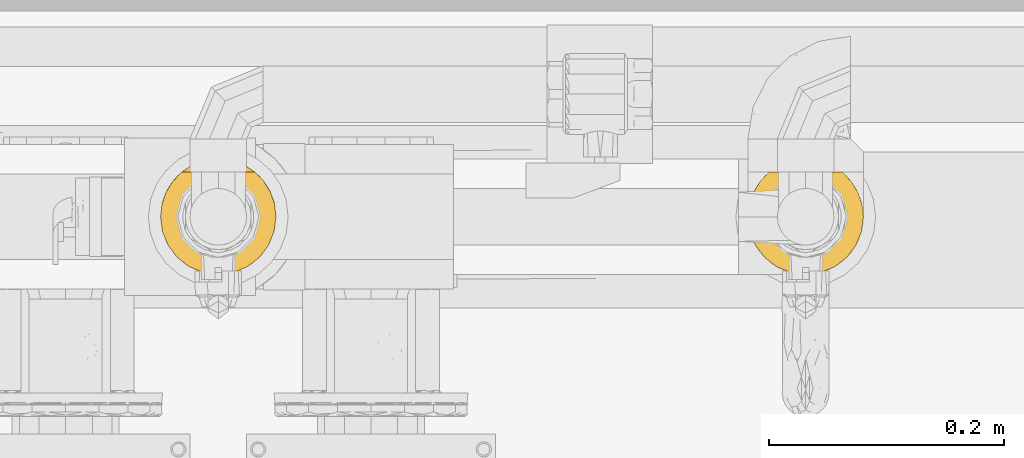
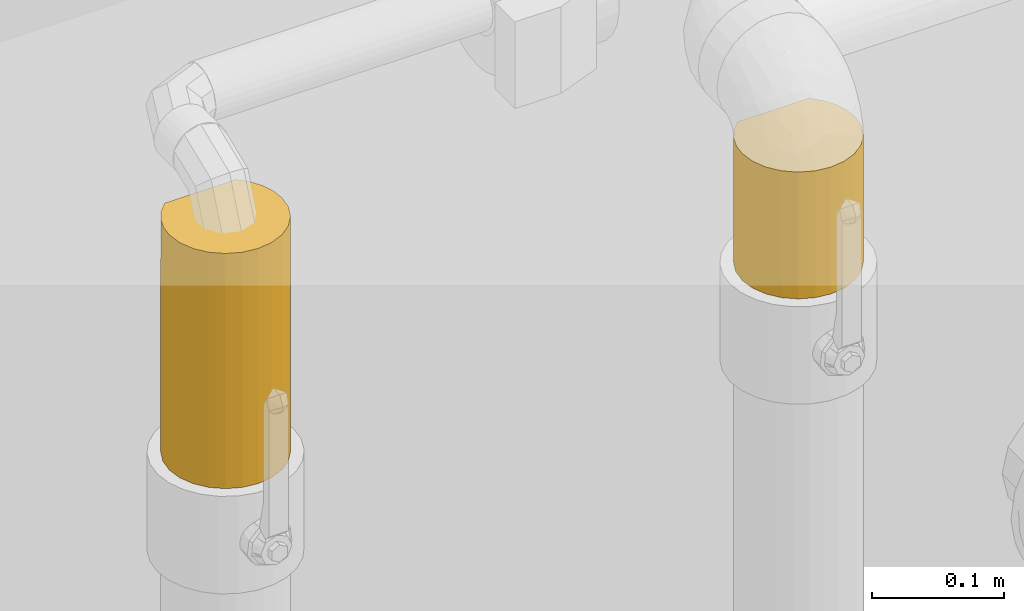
# One storey, part 14 of 94: 2 coverings.
"""IFC2X3 building model written with IfcOpenShell, lengths in millimetres."""

from ifc_helpers import new_model, entity, si_unit, converted_unit, derived_unit, direction, frame, origin, place, context, subcontext, project, spatial, faceted_brep, material, element, save


model = new_model("IFC2X3")

# Units and contexts
model_context = context("Model", 3, precision=0.01, world=origin(), true_north=direction((6.123031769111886e-17, 1.0)))
body_context = subcontext(model_context, "Body", "Model", "MODEL_VIEW")
ifc_project = project(units=[si_unit("LENGTHUNIT", "METRE", prefix="MILLI"), si_unit("AREAUNIT", "SQUARE_METRE"), si_unit("VOLUMEUNIT", "CUBIC_METRE"), converted_unit("PLANEANGLEUNIT", "DEGREE", entity("IfcRatioMeasure", 0.017453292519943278), si_unit("PLANEANGLEUNIT", "RADIAN"), dimensions=[0, 0, 0, 0, 0, 0, 0]), si_unit("MASSUNIT", "GRAM", prefix="KILO"), derived_unit("MASSDENSITYUNIT", [(si_unit("MASSUNIT", "GRAM", prefix="KILO"), 1), (si_unit("LENGTHUNIT", "METRE"), -3)]), derived_unit("IONCONCENTRATIONUNIT", [(si_unit("MASSUNIT", "GRAM", prefix="KILO"), 1), (si_unit("LENGTHUNIT", "METRE"), -3)]), derived_unit("MOMENTOFINERTIAUNIT", [(si_unit("LENGTHUNIT", "METRE"), 4)]), si_unit("TIMEUNIT", "SECOND"), si_unit("FREQUENCYUNIT", "HERTZ"), si_unit("THERMODYNAMICTEMPERATUREUNIT", "DEGREE_CELSIUS"), derived_unit("THERMALTRANSMITTANCEUNIT", [(si_unit("MASSUNIT", "GRAM", prefix="KILO"), 1), (si_unit("THERMODYNAMICTEMPERATUREUNIT", "KELVIN"), -1), (si_unit("TIMEUNIT", "SECOND"), -3)]), derived_unit("THERMALCONDUCTANCEUNIT", [(si_unit("MASSUNIT", "GRAM", prefix="KILO"), 1), (si_unit("THERMODYNAMICTEMPERATUREUNIT", "KELVIN"), -1), (si_unit("TIMEUNIT", "SECOND"), -3), (si_unit("LENGTHUNIT", "METRE"), 1)]), derived_unit("VOLUMETRICFLOWRATEUNIT", [(si_unit("LENGTHUNIT", "METRE"), 3), (si_unit("TIMEUNIT", "SECOND"), -1)]), derived_unit("MASSFLOWRATEUNIT", [(si_unit("MASSUNIT", "GRAM", prefix="KILO"), 1), (si_unit("TIMEUNIT", "SECOND"), -1)]), derived_unit("ROTATIONALFREQUENCYUNIT", [(si_unit("TIMEUNIT", "SECOND"), -1)]), si_unit("ELECTRICCURRENTUNIT", "AMPERE"), si_unit("ELECTRICVOLTAGEUNIT", "VOLT"), si_unit("POWERUNIT", "WATT"), si_unit("FORCEUNIT", "NEWTON", prefix="KILO"), si_unit("ILLUMINANCEUNIT", "LUX"), si_unit("LUMINOUSFLUXUNIT", "LUMEN"), si_unit("LUMINOUSINTENSITYUNIT", "CANDELA"), derived_unit("USERDEFINED", [(si_unit("MASSUNIT", "GRAM", prefix="KILO"), -1), (si_unit("LENGTHUNIT", "METRE"), -2), (si_unit("TIMEUNIT", "SECOND"), 3), (si_unit("LUMINOUSFLUXUNIT", "LUMEN"), 1)]), derived_unit("USERDEFINED", [(si_unit("MASSUNIT", "GRAM", prefix="KILO"), 1), (si_unit("TIMEUNIT", "SECOND"), -3), (si_unit("LENGTHUNIT", "METRE"), 3), (si_unit("ELECTRICCURRENTUNIT", "AMPERE"), -2)]), derived_unit("SOUNDPOWERUNIT", [(si_unit("MASSUNIT", "GRAM", prefix="KILO"), 1), (si_unit("TIMEUNIT", "SECOND"), -3), (si_unit("LENGTHUNIT", "METRE"), 2)]), derived_unit("SOUNDPRESSUREUNIT", [(si_unit("MASSUNIT", "GRAM", prefix="KILO"), 1), (si_unit("LENGTHUNIT", "METRE"), -1), (si_unit("TIMEUNIT", "SECOND"), -2)]), derived_unit("LINEARVELOCITYUNIT", [(si_unit("LENGTHUNIT", "METRE"), 1), (si_unit("TIMEUNIT", "SECOND"), -1)]), si_unit("PRESSUREUNIT", "PASCAL"), derived_unit("USERDEFINED", [(si_unit("MASSUNIT", "GRAM", prefix="KILO"), 1), (si_unit("LENGTHUNIT", "METRE"), -2), (si_unit("TIMEUNIT", "SECOND"), -2)]), derived_unit("LINEARFORCEUNIT", [(si_unit("MASSUNIT", "GRAM", prefix="KILO"), 1), (si_unit("TIMEUNIT", "SECOND"), -2)]), derived_unit("PLANARFORCEUNIT", [(si_unit("MASSUNIT", "GRAM", prefix="KILO"), 1), (si_unit("LENGTHUNIT", "METRE"), -1), (si_unit("TIMEUNIT", "SECOND"), -2)]), derived_unit("SPECIFICHEATCAPACITYUNIT", [(si_unit("THERMODYNAMICTEMPERATUREUNIT", "KELVIN"), -1), (si_unit("LENGTHUNIT", "METRE"), 2), (si_unit("TIMEUNIT", "SECOND"), -2)]), derived_unit("HEATINGVALUEUNIT", [(si_unit("LENGTHUNIT", "METRE"), 2), (si_unit("TIMEUNIT", "SECOND"), -2)]), derived_unit("VAPORPERMEABILITYUNIT", [(si_unit("LENGTHUNIT", "METRE"), -1), (si_unit("TIMEUNIT", "SECOND"), 1)]), derived_unit("DYNAMICVISCOSITYUNIT", [(si_unit("MASSUNIT", "GRAM", prefix="KILO"), 1), (si_unit("TIMEUNIT", "SECOND"), -1), (si_unit("LENGTHUNIT", "METRE"), -1)]), derived_unit("THERMALEXPANSIONCOEFFICIENTUNIT", [(si_unit("THERMODYNAMICTEMPERATUREUNIT", "KELVIN"), -1)]), derived_unit("MODULUSOFELASTICITYUNIT", [(si_unit("MASSUNIT", "GRAM", prefix="KILO"), 1), (si_unit("LENGTHUNIT", "METRE"), -1), (si_unit("TIMEUNIT", "SECOND"), -2)]), derived_unit("ISOTHERMALMOISTURECAPACITYUNIT", [(si_unit("LENGTHUNIT", "METRE"), 3), (si_unit("MASSUNIT", "GRAM", prefix="KILO"), -1)]), derived_unit("MOISTUREDIFFUSIVITYUNIT", [(si_unit("TIMEUNIT", "SECOND"), -1), (si_unit("LENGTHUNIT", "METRE"), 2)])], contexts=[model_context])

# Site, building, storey
site_placement = place(None, origin())
site = spatial("IfcSite", under=ifc_project, at=site_placement, Name="Default", CompositionType="ELEMENT")
building_placement = place(site_placement, origin())
building = spatial("IfcBuilding", under=site, at=building_placement, CompositionType="ELEMENT")
storey_placement = place(building_placement, origin())
storey = spatial("IfcBuildingStorey", under=building, at=storey_placement, Name="Niveau 0", CompositionType="ELEMENT", Elevation=0.0)

# Coverings
ifc_material = material(Name="Isolation - Laine minérale")
covering_1_placement = place(storey_placement, frame((-9922.87113779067, 9871.745273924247, 2813.595272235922)))
element("IfcCovering", 1, at=covering_1_placement, inside=storey, material=ifc_material, Name="Isolation des canalisations:Laine minérale", ObjectType="Isolation des canalisations:Laine minérale", PredefinedType="INSULATION", context=body_context, shape_type="Brep", body=[
    faceted_brep([(93.27310032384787, 26.160272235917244, -1.5952722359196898), (98.18120808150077, 38.00949255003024, -1.5952722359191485), (99.85527223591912, 50.72527223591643, -1.595272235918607), (98.65694811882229, 61.51004608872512, -1.5952722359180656), (95.12737949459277, 71.75405657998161, -1.595272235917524), (89.43799982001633, 80.97558831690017, -1.595272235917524), (81.86619226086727, 88.72527223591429, -1.5952722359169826), (19.58435221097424, 88.72527223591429, -1.5952722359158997), (12.012544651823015, 80.97558831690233, -1.5952722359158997), (6.3231649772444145, 71.75405657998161, -1.5952722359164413), (2.7935963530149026, 61.51004608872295, -1.5952722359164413), (1.5952722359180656, 50.72527223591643, -1.5952722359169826), (3.269336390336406, 38.00949255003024, -1.595272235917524), (8.177444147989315, 26.160272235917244, -1.5952722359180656), (15.985116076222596, 15.98511607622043, -1.595272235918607), (26.16027223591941, 8.17744414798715, -1.5952722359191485), (38.0094925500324, 3.26933639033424, -1.5952722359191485), (50.72527223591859, 1.5952722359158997, -1.5952722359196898), (63.441051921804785, 3.26933639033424, -1.5952722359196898), (75.29027223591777, 8.17744414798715, -1.5952722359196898), (85.46542839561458, 15.98511607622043, -1.5952722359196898), (93.2731003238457, 26.16027223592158, -118.59527223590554), (85.46542839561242, 15.985116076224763, -118.59527223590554), (75.29027223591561, 8.17744414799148, -118.59527223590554), (63.44105192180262, 3.2693363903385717, -118.59527223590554), (50.72527223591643, 1.5952722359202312, -118.59527223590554), (38.00949255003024, 3.2693363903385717, -118.595272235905), (26.160272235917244, 8.17744414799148, -118.595272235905), (15.98511607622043, 15.985116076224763, -118.59527223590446), (8.17744414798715, 26.16027223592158, -118.59527223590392), (3.26933639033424, 38.009492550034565, -118.59527223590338), (1.5952722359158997, 50.725272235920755, -118.59527223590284), (3.26933639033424, 63.441051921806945, -118.5952722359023), (8.17744414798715, 75.29027223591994, -118.59527223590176), (15.98511607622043, 85.46542839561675, -118.59527223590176), (26.160272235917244, 93.27310032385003, -118.59527223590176), (38.00949255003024, 98.18120808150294, -118.59527223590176), (50.72527223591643, 99.85527223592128, -118.59527223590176), (63.44105192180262, 98.18120808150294, -118.5952722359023), (75.29027223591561, 93.27310032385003, -118.5952722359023), (85.46542839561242, 85.46542839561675, -118.59527223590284), (93.2731003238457, 75.29027223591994, -118.59527223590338), (98.18120808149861, 63.441051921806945, -118.59527223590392), (99.85527223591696, 50.725272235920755, -118.59527223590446), (98.18120808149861, 38.009492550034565, -118.595272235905), (67.26033951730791, 96.98917230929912, -9.859172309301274), (59.11608534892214, 99.1334446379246, -12.003444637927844), (50.72527223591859, 99.85527223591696, -12.725272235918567), (74.91872078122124, 93.48546338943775, -6.355463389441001), (42.33445912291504, 99.1334446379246, -12.003444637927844), (34.19020495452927, 96.98917230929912, -9.859172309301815), (26.531823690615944, 93.48546338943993, -6.3554633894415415)], [[[0, 1, 2, 3, 4, 5, 6, 7, 8, 9, 10, 11, 12, 13, 14, 15, 16, 17, 18, 19, 20]], [[21, 22, 23, 24, 25, 26, 27, 28, 29, 30, 31, 32, 33, 34, 35, 36, 37, 38, 39, 40, 41, 42, 43, 44]], [[43, 42, 3]], [[41, 40, 5]], [[42, 41, 4]], [[3, 2, 43]], [[4, 3, 42]], [[41, 5, 4]], [[40, 6, 5]], [[45, 39, 38]], [[38, 37, 46]], [[47, 46, 37]], [[48, 6, 39]], [[46, 45, 38]], [[48, 39, 45]], [[39, 6, 40]], [[49, 47, 37]], [[49, 37, 36]], [[50, 36, 35]], [[50, 49, 36]], [[7, 51, 35]], [[50, 35, 51]], [[35, 34, 7]], [[8, 34, 33]], [[9, 33, 32]], [[10, 32, 31]], [[8, 33, 9]], [[9, 32, 10]], [[31, 11, 10]], [[34, 8, 7]], [[12, 11, 31, 30]], [[13, 12, 30, 29]], [[29, 28, 14, 13]], [[16, 15, 27, 26]], [[17, 16, 26, 25]], [[28, 27, 15, 14]], [[18, 17, 25, 24]], [[19, 18, 24, 23]], [[23, 22, 20, 19]], [[1, 0, 21, 44]], [[2, 1, 44, 43]], [[22, 21, 0, 20]], [[48, 45, 46, 47, 49, 50, 51, 7, 6]]]),
])
covering_2_placement = place(storey_placement, frame((-10422.871137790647, 9871.745273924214, 2913.595272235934)))
element("IfcCovering", 2, at=covering_2_placement, inside=storey, material=ifc_material, Name="Isolation des canalisations:Laine minérale", ObjectType="Isolation des canalisations:Laine minérale", PredefinedType="INSULATION", context=body_context, shape_type="Brep", body=[
    faceted_brep([(3.26933639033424, 38.00949255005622, -218.59527223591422), (1.5952722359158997, 50.72527223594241, -218.5952722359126), (3.26933639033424, 63.4410519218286, -218.59527223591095), (8.17744414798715, 75.2902722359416, -218.59527223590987), (15.98511607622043, 85.46542839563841, -218.59527223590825), (26.160272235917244, 93.27310032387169, -218.59527223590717), (38.00949255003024, 98.1812080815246, -218.59527223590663), (50.72527223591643, 99.85527223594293, -218.59527223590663), (63.44105192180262, 98.1812080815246, -218.59527223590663), (75.29027223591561, 93.27310032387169, -218.59527223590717), (85.46542839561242, 85.46542839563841, -218.59527223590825), (93.2731003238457, 75.2902722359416, -218.59527223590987), (98.18120808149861, 63.4410519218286, -218.59527223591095), (99.85527223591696, 50.72527223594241, -218.5952722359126), (98.18120808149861, 38.00949255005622, -218.59527223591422), (93.2731003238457, 26.160272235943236, -218.5952722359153), (85.46542839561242, 15.98511607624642, -218.59527223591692), (75.29027223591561, 8.177444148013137, -218.595272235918), (63.44105192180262, 3.269336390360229, -218.59527223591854), (50.72527223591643, 1.5952722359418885, -218.59527223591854), (38.00949255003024, 3.269336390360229, -218.59527223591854), (26.160272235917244, 8.177444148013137, -218.595272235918), (15.98511607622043, 15.98511607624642, -218.59527223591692), (8.17744414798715, 26.160272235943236, -218.5952722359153), (1.5952722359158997, 50.72527223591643, -1.5952722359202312), (3.26933639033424, 38.00949255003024, -1.5952722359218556), (8.17744414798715, 26.160272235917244, -1.5952722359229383), (15.98511607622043, 15.98511607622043, -1.5952722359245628), (26.160272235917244, 8.17744414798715, -1.5952722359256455), (38.00949255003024, 3.26933639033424, -1.595272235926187), (50.72527223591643, 1.5952722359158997, -1.595272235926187), (63.44105192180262, 3.26933639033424, -1.595272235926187), (75.29027223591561, 8.17744414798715, -1.5952722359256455), (85.46542839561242, 15.98511607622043, -1.5952722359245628), (93.2731003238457, 26.160272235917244, -1.5952722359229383), (98.18120808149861, 38.00949255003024, -1.5952722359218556), (99.85527223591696, 50.72527223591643, -1.5952722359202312), (98.6569481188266, 61.51004608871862, -1.5952722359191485), (95.12737949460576, 71.75405657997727, -1.595272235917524), (89.43799982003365, 80.975588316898, -1.5952722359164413), (81.86619226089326, 88.72527223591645, -1.5952722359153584), (19.584352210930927, 88.72527223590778, -1.5952722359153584), (12.012544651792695, 80.9755883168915, -1.5952722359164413), (6.3231649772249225, 71.75405657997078, -1.595272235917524), (2.793596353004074, 61.51004608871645, -1.5952722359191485), (26.53182369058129, 93.48546338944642, -6.355463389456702), (34.19020495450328, 96.98917230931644, -9.859172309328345), (42.33445912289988, 99.13344463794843, -12.003444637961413), (50.72527223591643, 99.85527223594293, -12.725272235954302), (59.116085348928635, 99.13344463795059, -12.003444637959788), (67.26033951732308, 96.9891723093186, -9.85917230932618), (74.9187207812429, 93.48546338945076, -6.355463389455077)], [[[0, 1, 2, 3, 4, 5, 6, 7, 8, 9, 10, 11, 12, 13, 14, 15, 16, 17, 18, 19, 20, 21, 22, 23]], [[24, 25, 26, 27, 28, 29, 30, 31, 32, 33, 34, 35, 36, 37, 38, 39, 40, 41, 42, 43, 44]], [[24, 44, 1]], [[44, 43, 2]], [[3, 43, 42]], [[2, 1, 44]], [[3, 2, 43]], [[42, 4, 3]], [[42, 41, 4]], [[41, 45, 5]], [[46, 47, 6]], [[45, 46, 5]], [[5, 46, 6]], [[7, 6, 47]], [[48, 7, 47]], [[41, 5, 4]], [[49, 50, 8]], [[51, 40, 9]], [[50, 51, 9]], [[48, 49, 7]], [[7, 49, 8]], [[50, 9, 8]], [[40, 10, 9]], [[11, 39, 38]], [[12, 38, 37]], [[13, 37, 36]], [[10, 39, 11]], [[11, 38, 12]], [[37, 13, 12]], [[39, 10, 40]], [[14, 13, 36, 35]], [[15, 14, 35, 34]], [[34, 33, 16, 15]], [[18, 17, 32, 31]], [[19, 18, 31, 30]], [[33, 32, 17, 16]], [[20, 19, 30, 29]], [[21, 20, 29, 28]], [[28, 27, 22, 21]], [[0, 23, 26, 25]], [[1, 0, 25, 24]], [[27, 26, 23, 22]], [[50, 49, 48, 47, 46, 45, 41, 40, 51]]]),
])

save(model, "model.ifc")
